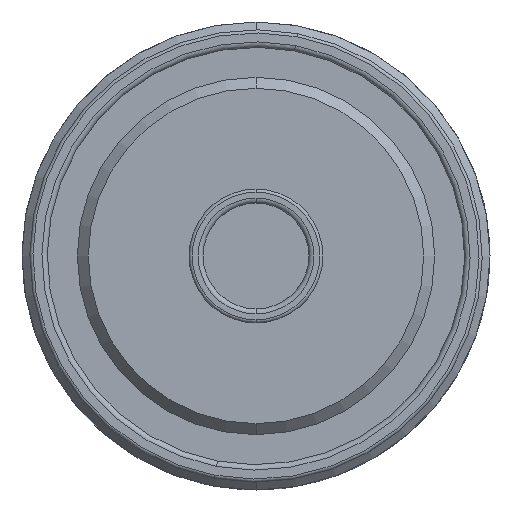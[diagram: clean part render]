
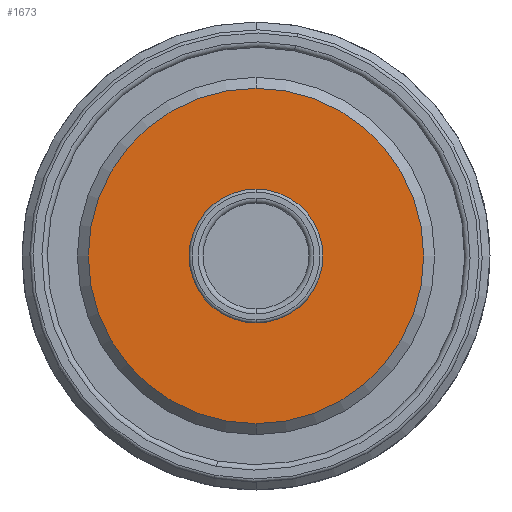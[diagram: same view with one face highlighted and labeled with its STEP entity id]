
A CAD part, front view. The second image highlights one B-rep face of the part: STEP entity #1673.
In plain terms, the highlighted planar face has unit normal (0, -1, 0).
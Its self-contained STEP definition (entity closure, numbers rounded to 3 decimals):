
#1158=PLANE('',#4106);
#1200=FACE_BOUND('',#2077,.T.);
#1201=FACE_BOUND('',#2078,.T.);
#1673=ADVANCED_FACE('',(#1200,#1201),#1158,.T.);
#2077=EDGE_LOOP('',(#2507,#2508));
#2078=EDGE_LOOP('',(#2509,#2510));
#2507=ORIENTED_EDGE('',*,*,#3437,.T.);
#2508=ORIENTED_EDGE('',*,*,#3434,.T.);
#2509=ORIENTED_EDGE('',*,*,#3438,.F.);
#2510=ORIENTED_EDGE('',*,*,#3439,.F.);
#3124=VERTEX_POINT('',#5785);
#3125=VERTEX_POINT('',#5786);
#3126=VERTEX_POINT('',#5793);
#3127=VERTEX_POINT('',#5794);
#3434=EDGE_CURVE('',#3124,#3125,#3776,.T.);
#3437=EDGE_CURVE('',#3125,#3124,#3777,.T.);
#3438=EDGE_CURVE('',#3126,#3127,#3778,.T.);
#3439=EDGE_CURVE('',#3127,#3126,#3779,.T.);
#3776=CIRCLE('',#4100,8.58);
#3777=CIRCLE('',#4102,8.58);
#3778=CIRCLE('',#4104,21.5);
#3779=CIRCLE('',#4105,21.5);
#4100=AXIS2_PLACEMENT_3D('',#5784,#4770,#4771);
#4102=AXIS2_PLACEMENT_3D('',#5790,#4776,#4777);
#4104=AXIS2_PLACEMENT_3D('',#5792,#4780,#4781);
#4105=AXIS2_PLACEMENT_3D('',#5795,#4782,#4783);
#4106=AXIS2_PLACEMENT_3D('',#5796,#4784,#4785);
#4770=DIRECTION('',(0.,1.,0.));
#4771=DIRECTION('',(0.,0.,1.));
#4776=DIRECTION('',(0.,1.,0.));
#4777=DIRECTION('',(0.,0.,1.));
#4780=DIRECTION('',(0.,1.,0.));
#4781=DIRECTION('',(0.,0.,1.));
#4782=DIRECTION('',(0.,1.,0.));
#4783=DIRECTION('',(0.,0.,1.));
#4784=DIRECTION('',(0.,-1.,0.));
#4785=DIRECTION('',(0.,0.,1.));
#5784=CARTESIAN_POINT('',(0.,-1.3,0.));
#5785=CARTESIAN_POINT('',(0.,-1.3,-8.58));
#5786=CARTESIAN_POINT('',(0.,-1.3,8.58));
#5790=CARTESIAN_POINT('',(0.,-1.3,0.));
#5792=CARTESIAN_POINT('',(0.,-1.3,0.));
#5793=CARTESIAN_POINT('',(0.,-1.3,21.5));
#5794=CARTESIAN_POINT('',(0.,-1.3,-21.5));
#5795=CARTESIAN_POINT('',(0.,-1.3,0.));
#5796=CARTESIAN_POINT('',(0.,-1.3,0.));
